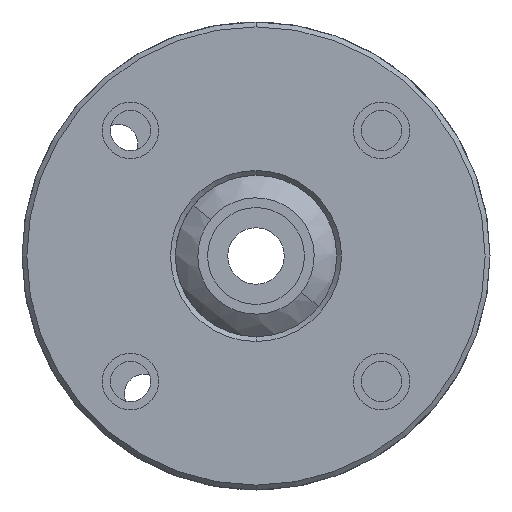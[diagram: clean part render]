
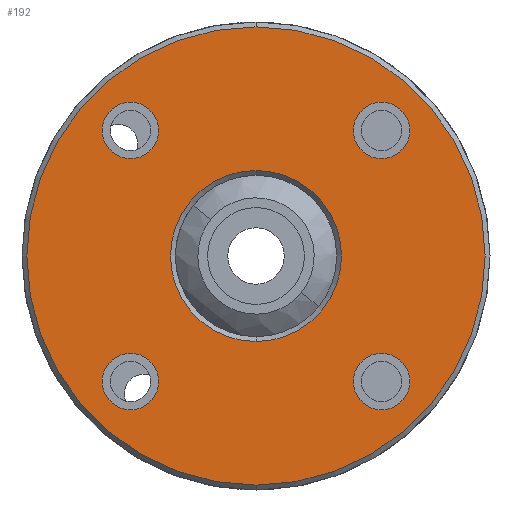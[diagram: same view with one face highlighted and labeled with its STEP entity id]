
A CAD part, front view. The second image highlights one B-rep face of the part: STEP entity #192.
In plain terms, the highlighted planar face has unit normal (0, -1, 0).
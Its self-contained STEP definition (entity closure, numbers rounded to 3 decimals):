
#192 = ADVANCED_FACE ( 'NONE', ( #3171, #3390, #3394, #3387, #3523, #3497 ), #1782, .F. ) ;
#405 = AXIS2_PLACEMENT_3D ( 'NONE', #1780, #1784, #1778 ) ;
#471 = AXIS2_PLACEMENT_3D ( 'NONE', #9715, #9714, #9713 ) ;
#472 = AXIS2_PLACEMENT_3D ( 'NONE', #9708, #9707, #9706 ) ;
#475 = AXIS2_PLACEMENT_3D ( 'NONE', #9656, #9655, #9653 ) ;
#484 = AXIS2_PLACEMENT_3D ( 'NONE', #9526, #9525, #9524 ) ;
#552 = AXIS2_PLACEMENT_3D ( 'NONE', #10198, #10197, #10196 ) ;
#559 = AXIS2_PLACEMENT_3D ( 'NONE', #10175, #10174, #10173 ) ;
#1164 = CARTESIAN_POINT ( 'NONE',  ( 0., -16.2, 0. ) ) ;
#1165 = DIRECTION ( 'NONE',  ( 0., 1., 0. ) ) ;
#1166 = DIRECTION ( 'NONE',  ( 0., 0., 1. ) ) ;
#1168 = CARTESIAN_POINT ( 'NONE',  ( -7.778, -16.2, -7.778 ) ) ;
#1169 = DIRECTION ( 'NONE',  ( 0., 1., 0. ) ) ;
#1170 = DIRECTION ( 'NONE',  ( 0., 0., -1. ) ) ;
#1778 = DIRECTION ( 'NONE',  ( 0., 0., 1. ) ) ;
#1780 = CARTESIAN_POINT ( 'NONE',  ( 5., -16.2, 0. ) ) ;
#1782 = PLANE ( 'NONE',  #405 ) ;
#1784 = DIRECTION ( 'NONE',  ( 0., 1., 0. ) ) ;
#2159 = CARTESIAN_POINT ( 'NONE',  ( 7.778, -16.2, -6.028 ) ) ;
#2196 = CARTESIAN_POINT ( 'NONE',  ( -7.778, -16.2, 9.528 ) ) ;
#2430 = CARTESIAN_POINT ( 'NONE',  ( 7.778, -16.2, 6.028 ) ) ;
#2562 = CIRCLE ( 'NONE', #552, 1.75 ) ;
#2570 = CIRCLE ( 'NONE', #559, 1.75 ) ;
#2721 = CIRCLE ( 'NONE', #484, 1.75 ) ;
#2913 = CIRCLE ( 'NONE', #4844, 1.75 ) ;
#2920 = CIRCLE ( 'NONE', #4848, 1.75 ) ;
#2938 = CIRCLE ( 'NONE', #471, 5.3 ) ;
#3015 = CIRCLE ( 'NONE', #472, 14.2 ) ;
#3044 = CIRCLE ( 'NONE', #4868, 1.75 ) ;
#3114 = CIRCLE ( 'NONE', #4883, 5.3 ) ;
#3120 = CIRCLE ( 'NONE', #4884, 1.75 ) ;
#3171 = FACE_BOUND ( 'NONE', #9380, .T. ) ;
#3354 = CIRCLE ( 'NONE', #4920, 14.2 ) ;
#3387 = FACE_BOUND ( 'NONE', #8956, .T. ) ;
#3390 = FACE_BOUND ( 'NONE', #8888, .T. ) ;
#3394 = FACE_BOUND ( 'NONE', #9181, .T. ) ;
#3497 = FACE_OUTER_BOUND ( 'NONE', #8934, .T. ) ;
#3523 = FACE_BOUND ( 'NONE', #9338, .T. ) ;
#3595 = CIRCLE ( 'NONE', #475, 1.75 ) ;
#3754 = ORIENTED_EDGE ( 'NONE', *, *, #8067, .T. ) ;
#3765 = ORIENTED_EDGE ( 'NONE', *, *, #7330, .T. ) ;
#3767 = ORIENTED_EDGE ( 'NONE', *, *, #8071, .T. ) ;
#3770 = ORIENTED_EDGE ( 'NONE', *, *, #7462, .T. ) ;
#3771 = ORIENTED_EDGE ( 'NONE', *, *, #8144, .T. ) ;
#3772 = ORIENTED_EDGE ( 'NONE', *, *, #7456, .T. ) ;
#3773 = ORIENTED_EDGE ( 'NONE', *, *, #8225, .T. ) ;
#3776 = ORIENTED_EDGE ( 'NONE', *, *, #8143, .T. ) ;
#3778 = ORIENTED_EDGE ( 'NONE', *, *, #7293, .T. ) ;
#3779 = ORIENTED_EDGE ( 'NONE', *, *, #7305, .T. ) ;
#3780 = ORIENTED_EDGE ( 'NONE', *, *, #8096, .T. ) ;
#3791 = ORIENTED_EDGE ( 'NONE', *, *, #7294, .T. ) ;
#4844 = AXIS2_PLACEMENT_3D ( 'NONE', #5328, #5329, #5330 ) ;
#4848 = AXIS2_PLACEMENT_3D ( 'NONE', #5341, #5342, #5343 ) ;
#4868 = AXIS2_PLACEMENT_3D ( 'NONE', #5417, #5418, #5419 ) ;
#4883 = AXIS2_PLACEMENT_3D ( 'NONE', #1164, #1165, #1166 ) ;
#4884 = AXIS2_PLACEMENT_3D ( 'NONE', #1168, #1169, #1170 ) ;
#4920 = AXIS2_PLACEMENT_3D ( 'NONE', #8443, #8444, #8445 ) ;
#5328 = CARTESIAN_POINT ( 'NONE',  ( 7.778, -16.2, 7.778 ) ) ;
#5329 = DIRECTION ( 'NONE',  ( 0., 1., 0. ) ) ;
#5330 = DIRECTION ( 'NONE',  ( 0., 0., -1. ) ) ;
#5341 = CARTESIAN_POINT ( 'NONE',  ( -7.778, -16.2, 7.778 ) ) ;
#5342 = DIRECTION ( 'NONE',  ( 0., 1., 0. ) ) ;
#5343 = DIRECTION ( 'NONE',  ( 0., 0., 1. ) ) ;
#5417 = CARTESIAN_POINT ( 'NONE',  ( 7.778, -16.2, -7.778 ) ) ;
#5418 = DIRECTION ( 'NONE',  ( 0., 1., 0. ) ) ;
#5419 = DIRECTION ( 'NONE',  ( 0., 0., 1. ) ) ;
#6276 = VERTEX_POINT ( 'NONE', #2159 ) ;
#6281 = VERTEX_POINT ( 'NONE', #2196 ) ;
#6283 = VERTEX_POINT ( 'NONE', #2430 ) ;
#6296 = VERTEX_POINT ( 'NONE', #9893 ) ;
#6300 = VERTEX_POINT ( 'NONE', #9891 ) ;
#6302 = VERTEX_POINT ( 'NONE', #9890 ) ;
#6306 = VERTEX_POINT ( 'NONE', #9886 ) ;
#6308 = VERTEX_POINT ( 'NONE', #9884 ) ;
#6314 = VERTEX_POINT ( 'NONE', #9874 ) ;
#6320 = VERTEX_POINT ( 'NONE', #9868 ) ;
#6333 = VERTEX_POINT ( 'NONE', #9862 ) ;
#6351 = VERTEX_POINT ( 'NONE', #9855 ) ;
#7293 = EDGE_CURVE ( 'NONE', #6300, #6296, #2938, .T. ) ;
#7294 = EDGE_CURVE ( 'NONE', #6308, #6306, #3015, .T. ) ;
#7305 = EDGE_CURVE ( 'NONE', #6314, #6276, #3595, .T. ) ;
#7330 = EDGE_CURVE ( 'NONE', #6320, #6281, #2721, .T. ) ;
#7456 = EDGE_CURVE ( 'NONE', #6283, #6302, #2562, .T. ) ;
#7462 = EDGE_CURVE ( 'NONE', #6351, #6333, #2570, .T. ) ;
#8067 = EDGE_CURVE ( 'NONE', #6302, #6283, #2913, .T. ) ;
#8071 = EDGE_CURVE ( 'NONE', #6281, #6320, #2920, .T. ) ;
#8096 = EDGE_CURVE ( 'NONE', #6276, #6314, #3044, .T. ) ;
#8143 = EDGE_CURVE ( 'NONE', #6296, #6300, #3114, .T. ) ;
#8144 = EDGE_CURVE ( 'NONE', #6333, #6351, #3120, .T. ) ;
#8225 = EDGE_CURVE ( 'NONE', #6306, #6308, #3354, .T. ) ;
#8443 = CARTESIAN_POINT ( 'NONE',  ( 0., -16.2, 0. ) ) ;
#8444 = DIRECTION ( 'NONE',  ( 0., -1., 0. ) ) ;
#8445 = DIRECTION ( 'NONE',  ( 0., 0., 1. ) ) ;
#8888 = EDGE_LOOP ( 'NONE', ( #3771, #3770 ) ) ;
#8934 = EDGE_LOOP ( 'NONE', ( #3773, #3791 ) ) ;
#8956 = EDGE_LOOP ( 'NONE', ( #3780, #3779 ) ) ;
#9181 = EDGE_LOOP ( 'NONE', ( #3767, #3765 ) ) ;
#9338 = EDGE_LOOP ( 'NONE', ( #3778, #3776 ) ) ;
#9380 = EDGE_LOOP ( 'NONE', ( #3754, #3772 ) ) ;
#9524 = DIRECTION ( 'NONE',  ( 0., 0., 1. ) ) ;
#9525 = DIRECTION ( 'NONE',  ( 0., 1., 0. ) ) ;
#9526 = CARTESIAN_POINT ( 'NONE',  ( -7.778, -16.2, 7.778 ) ) ;
#9653 = DIRECTION ( 'NONE',  ( 0., 0., 1. ) ) ;
#9655 = DIRECTION ( 'NONE',  ( 0., 1., 0. ) ) ;
#9656 = CARTESIAN_POINT ( 'NONE',  ( 7.778, -16.2, -7.778 ) ) ;
#9706 = DIRECTION ( 'NONE',  ( 0., 0., 1. ) ) ;
#9707 = DIRECTION ( 'NONE',  ( 0., -1., 0. ) ) ;
#9708 = CARTESIAN_POINT ( 'NONE',  ( 0., -16.2, 0. ) ) ;
#9713 = DIRECTION ( 'NONE',  ( 0., 0., 1. ) ) ;
#9714 = DIRECTION ( 'NONE',  ( 0., 1., 0. ) ) ;
#9715 = CARTESIAN_POINT ( 'NONE',  ( 0., -16.2, 0. ) ) ;
#9855 = CARTESIAN_POINT ( 'NONE',  ( -7.778, -16.2, -9.528 ) ) ;
#9862 = CARTESIAN_POINT ( 'NONE',  ( -7.778, -16.2, -6.028 ) ) ;
#9868 = CARTESIAN_POINT ( 'NONE',  ( -7.778, -16.2, 6.028 ) ) ;
#9874 = CARTESIAN_POINT ( 'NONE',  ( 7.778, -16.2, -9.528 ) ) ;
#9884 = CARTESIAN_POINT ( 'NONE',  ( 0., -16.2, -14.2 ) ) ;
#9886 = CARTESIAN_POINT ( 'NONE',  ( 0., -16.2, 14.2 ) ) ;
#9890 = CARTESIAN_POINT ( 'NONE',  ( 7.778, -16.2, 9.528 ) ) ;
#9891 = CARTESIAN_POINT ( 'NONE',  ( 0., -16.2, -5.3 ) ) ;
#9893 = CARTESIAN_POINT ( 'NONE',  ( 0., -16.2, 5.3 ) ) ;
#10173 = DIRECTION ( 'NONE',  ( 0., 0., -1. ) ) ;
#10174 = DIRECTION ( 'NONE',  ( 0., 1., 0. ) ) ;
#10175 = CARTESIAN_POINT ( 'NONE',  ( -7.778, -16.2, -7.778 ) ) ;
#10196 = DIRECTION ( 'NONE',  ( 0., 0., -1. ) ) ;
#10197 = DIRECTION ( 'NONE',  ( 0., 1., 0. ) ) ;
#10198 = CARTESIAN_POINT ( 'NONE',  ( 7.778, -16.2, 7.778 ) ) ;
